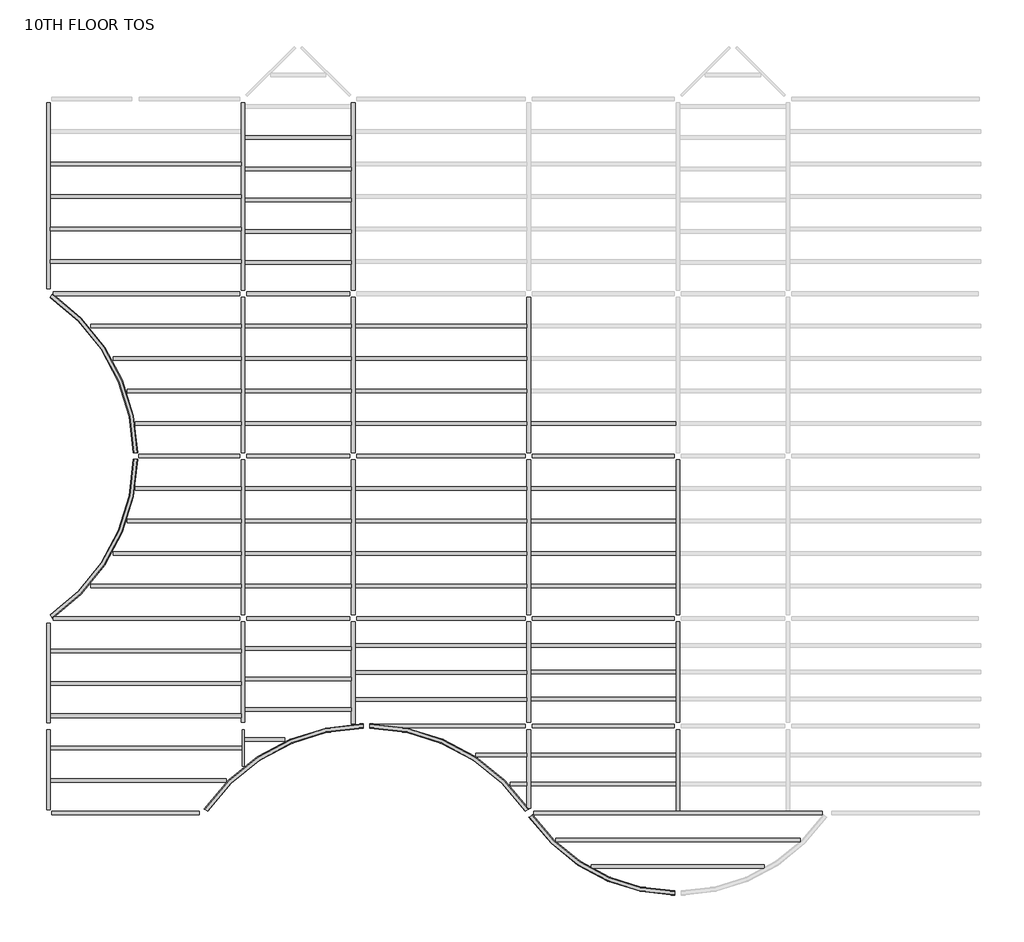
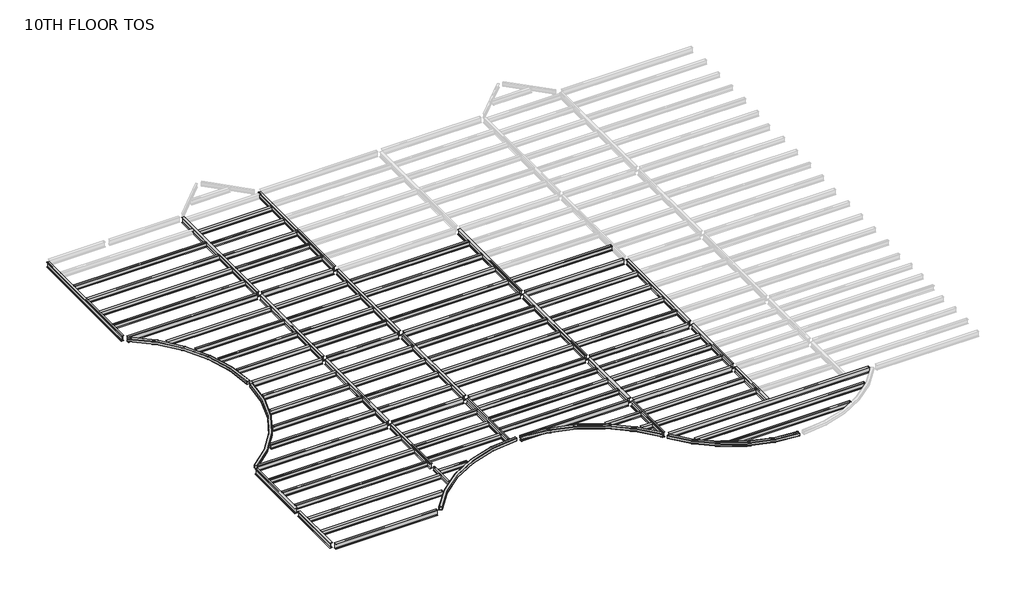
# One storey, part 1 of 2: 97 beams.
"""IFC4 building model written with IfcOpenShell, lengths in millimetres."""

from ifc_helpers import new_model, si_unit, origin, place, context, project, spatial, transform, mapped, element, save
from components import m_hss_square_hss203_2x203_2x9_5_914ff4eb, m_hss_square_hss203_2x203_2x9_5_0e3d8e6e, m_hss_square_hss203_2x203_2x9_5_16dc1c03, m_hss_square_hss203_2x203_2x9_5_18346204, m_hss_square_hss203_2x203_2x9_5_d5f1e8c4, ub_universal_beams_ub254x102x28_4e7f3726, ub_universal_beams_ub305x165x40_c4d0385b, ub_universal_beams_ub305x165x40_d3abc31d, ub_universal_beams_ub305x165x40_0c73730f, ub_universal_beams_ub305x165x40_2a963f0c, ub_universal_beams_ub305x165x40_0a5f2f96, ub_universal_beams_ub305x165x40_d1f7c369, ub_universal_beams_ub305x165x40_83d7b7d5, ub_universal_beams_ub305x165x40_729a4ea5, ub_universal_beams_ub305x165x40_71dfa851, ub_universal_beams_ub305x165x40_619b5398, ub_universal_beams_ub305x165x40_c3492db1, ub_universal_beams_ub305x165x40_8f1c350d, ub_universal_beams_ub305x165x40_3afb5f90, ub_universal_beams_ub305x165x40_767d1929, ub_universal_beams_ub305x165x40_5941ca45, ub_universal_beams_ub356x171x51_ef72dcdd, ub_universal_beams_ub356x171x51_7f80702c, ub_universal_beams_ub356x171x51_dfc36663, ub_universal_beams_ub356x171x51_405a853e, ub_universal_beams_ub356x171x51_e47b7055, ub_universal_beams_ub356x171x51_e97f8d2e, ub_universal_beams_ub356x171x51_11d6b780, ub_universal_beams_ub356x171x51_76b2d20b, ub_universal_beams_ub356x171x51_145ecd4b, ub_universal_beams_ub356x171x51_c7dff8d2, ub_universal_beams_ub356x171x51_834c6e34, ub_universal_beams_ub356x171x51_a38b99de, ub_universal_beams_ub356x171x51_d8f4cdde, ub_universal_beams_ub356x171x51_8094f821, ub_universal_beams_ub356x171x51_c03c70fb, ub_universal_beams_ub356x171x51_e661f2e4, ub_universal_beams_ub356x171x51_3ee91673, ub_universal_beams_ub356x171x51_a871b283, ub_universal_beams_ub356x171x51_741bae58

model = new_model("IFC4")

# Units and contexts
model_context = context("Model", 3, world=origin())
ifc_project = project(units=[si_unit("LENGTHUNIT", "METRE", prefix="MILLI")], contexts=[model_context])

# Site, building, storey
site = spatial("IfcSite", under=ifc_project)
building = spatial("IfcBuilding", under=site)
storey = spatial("IfcBuildingStorey", under=building, Name="10TH FLOOR TOS", Elevation=45567.6)

# Beams
placement = place(None, origin())
m_hss_square_hss203_2x203_2x9_5_shape = m_hss_square_hss203_2x203_2x9_5_914ff4eb(model_context)
element("IfcBeam", 1, ObjectType="M_HSS Square : HSS203.2X203.2X9.5", at=placement, inside=storey, context=model_context, shape_type="MappedRepresentation", body=[
    mapped(m_hss_square_hss203_2x203_2x9_5_shape, transform((22710.575, 155.575, 45466.1), x_axis=(-0.552849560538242, 0.8332810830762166, 0.0), y_axis=(-0.8332810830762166, -0.552849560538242, 0.0), z_axis=(0.0, 0.0, 1.0))),
])
m_hss_square_hss203_2x203_2x9_5_2_shape = m_hss_square_hss203_2x203_2x9_5_0e3d8e6e(model_context)
element("IfcBeam", 2, ObjectType="M_HSS Square : HSS203.2X203.2X9.5", at=placement, inside=storey, context=model_context, shape_type="MappedRepresentation", body=[
    mapped(m_hss_square_hss203_2x203_2x9_5_2_shape, transform((155.575, 9299.575, 45466.1), x_axis=(0.8332810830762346, 0.5528495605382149, 0.0), y_axis=(-0.5528495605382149, 0.8332810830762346, 0.0), z_axis=(0.0, 0.0, 1.0))),
])
m_hss_square_hss203_2x203_2x9_5_3_shape = m_hss_square_hss203_2x203_2x9_5_16dc1c03(model_context)
element("IfcBeam", 3, ObjectType="M_HSS Square : HSS203.2X203.2X9.5", at=placement, inside=storey, context=model_context, shape_type="MappedRepresentation", body=[
    mapped(m_hss_square_hss203_2x203_2x9_5_3_shape, transform((155.575, 24539.575, 45466.1), x_axis=(0.8332810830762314, -0.5528495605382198, 0.0), y_axis=(0.5528495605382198, 0.8332810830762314, 0.0), z_axis=(0.0, 0.0, 1.0))),
])
m_hss_square_hss203_2x203_2x9_5_4_shape = m_hss_square_hss203_2x203_2x9_5_18346204(model_context)
element("IfcBeam", 4, ObjectType="M_HSS Square : HSS203.2X203.2X9.5", at=placement, inside=storey, context=model_context, shape_type="MappedRepresentation", body=[
    mapped(m_hss_square_hss203_2x203_2x9_5_4_shape, transform((29734.7266693, -3601.398624, 45466.1), x_axis=(-0.9999968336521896, -0.0025164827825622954, 0.0), y_axis=(0.0025164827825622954, -0.9999968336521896, 0.0), z_axis=(0.0, 0.0, 1.0))),
])
m_hss_square_hss203_2x203_2x9_5_5_shape = m_hss_square_hss203_2x203_2x9_5_d5f1e8c4(model_context)
element("IfcBeam", 5, ObjectType="M_HSS Square : HSS203.2X203.2X9.5", at=placement, inside=storey, context=model_context, shape_type="MappedRepresentation", body=[
    mapped(m_hss_square_hss203_2x203_2x9_5_5_shape, transform((15096.4572854, 4244.5731081, 45466.1), x_axis=(-0.9999997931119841, 0.0006432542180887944, 0.0), y_axis=(-0.0006432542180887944, -0.9999997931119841, 0.0), z_axis=(0.0, 0.0, 1.0))),
])
ub_universal_beams_ub254x102x28_shape = ub_universal_beams_ub254x102x28_4e7f3726(model_context)
element("IfcBeam", 6, ObjectType="UB-Universal Beams : UB254x102x28", at=placement, inside=storey, context=model_context, shape_type="MappedRepresentation", body=[
    mapped(ub_universal_beams_ub254x102x28_shape, transform((9299.575, 3210.915913, 45437.4), x_axis=(0.0, -1.0, 0.0), y_axis=(1.0, 0.0, 0.0), z_axis=(0.0, 0.0, 1.0))),
])
ub_universal_beams_ub305x165x40_shape = ub_universal_beams_ub305x165x40_c4d0385b(model_context)
element("IfcBeam", 7, ObjectType="UB-Universal Beams : UB305x165x40", at=placement, inside=storey, context=model_context, shape_type="MappedRepresentation", body=[
    mapped(ub_universal_beams_ub305x165x40_shape, transform((4727.575, 30635.575, 45415.9), x_axis=(1.0, 0.0, 0.0), y_axis=(0.0, 1.0, 0.0), z_axis=(0.0, 0.0, 1.0))),
])
element("IfcBeam", 8, ObjectType="UB-Universal Beams : UB305x165x40", at=placement, inside=storey, context=model_context, shape_type="MappedRepresentation", body=[
    mapped(ub_universal_beams_ub305x165x40_shape, transform((4727.575, 29111.575, 45415.9), x_axis=(1.0, 0.0, 0.0), y_axis=(0.0, 1.0, 0.0), z_axis=(0.0, 0.0, 1.0))),
])
element("IfcBeam", 9, ObjectType="UB-Universal Beams : UB305x165x40", at=placement, inside=storey, context=model_context, shape_type="MappedRepresentation", body=[
    mapped(ub_universal_beams_ub305x165x40_shape, transform((4727.575, 27587.575, 45415.9), x_axis=(1.0, 0.0, 0.0), y_axis=(0.0, 1.0, 0.0), z_axis=(0.0, 0.0, 1.0))),
])
element("IfcBeam", 10, ObjectType="UB-Universal Beams : UB305x165x40", at=placement, inside=storey, context=model_context, shape_type="MappedRepresentation", body=[
    mapped(ub_universal_beams_ub305x165x40_shape, transform((4727.575, 26063.575, 45415.9), x_axis=(1.0, 0.0, 0.0), y_axis=(0.0, 1.0, 0.0), z_axis=(0.0, 0.0, 1.0))),
])
element("IfcBeam", 11, ObjectType="UB-Universal Beams : UB305x165x40", at=placement, inside=storey, context=model_context, shape_type="MappedRepresentation", body=[
    mapped(ub_universal_beams_ub305x165x40_shape, transform((4727.575, 4727.575, 45415.9), x_axis=(-1.0, 0.0, 0.0), y_axis=(0.0, -1.0, 0.0), z_axis=(0.0, 0.0, 1.0))),
])
element("IfcBeam", 12, ObjectType="UB-Universal Beams : UB305x165x40", at=placement, inside=storey, context=model_context, shape_type="MappedRepresentation", body=[
    mapped(ub_universal_beams_ub305x165x40_shape, transform((4727.575, 6251.575, 45415.9), x_axis=(-1.0, 0.0, 0.0), y_axis=(0.0, -1.0, 0.0), z_axis=(0.0, 0.0, 1.0))),
])
element("IfcBeam", 13, ObjectType="UB-Universal Beams : UB305x165x40", at=placement, inside=storey, context=model_context, shape_type="MappedRepresentation", body=[
    mapped(ub_universal_beams_ub305x165x40_shape, transform((4727.575, 7775.575, 45415.9), x_axis=(-1.0, 0.0, 0.0), y_axis=(0.0, -1.0, 0.0), z_axis=(0.0, 0.0, 1.0))),
])
ub_universal_beams_ub305x165x40_2_shape = ub_universal_beams_ub305x165x40_d3abc31d(model_context)
element("IfcBeam", 14, ObjectType="UB-Universal Beams : UB305x165x40", at=placement, inside=storey, context=model_context, shape_type="MappedRepresentation", body=[
    mapped(ub_universal_beams_ub305x165x40_2_shape, transform((11885.575, 31870.825, 45415.9), x_axis=(1.0, 0.0, 0.0), y_axis=(0.0, 1.0, 0.0), z_axis=(0.0, 0.0, 1.0))),
])
element("IfcBeam", 15, ObjectType="UB-Universal Beams : UB305x165x40", at=placement, inside=storey, context=model_context, shape_type="MappedRepresentation", body=[
    mapped(ub_universal_beams_ub305x165x40_2_shape, transform((11885.575, 30404.575, 45415.9), x_axis=(1.0, 0.0, 0.0), y_axis=(0.0, 1.0, 0.0), z_axis=(0.0, 0.0, 1.0))),
])
element("IfcBeam", 16, ObjectType="UB-Universal Beams : UB305x165x40", at=placement, inside=storey, context=model_context, shape_type="MappedRepresentation", body=[
    mapped(ub_universal_beams_ub305x165x40_2_shape, transform((11885.575, 28938.325, 45415.9), x_axis=(1.0, 0.0, 0.0), y_axis=(0.0, 1.0, 0.0), z_axis=(0.0, 0.0, 1.0))),
])
element("IfcBeam", 17, ObjectType="UB-Universal Beams : UB305x165x40", at=placement, inside=storey, context=model_context, shape_type="MappedRepresentation", body=[
    mapped(ub_universal_beams_ub305x165x40_2_shape, transform((11885.575, 27472.075, 45415.9), x_axis=(1.0, 0.0, 0.0), y_axis=(0.0, 1.0, 0.0), z_axis=(0.0, 0.0, 1.0))),
])
element("IfcBeam", 18, ObjectType="UB-Universal Beams : UB305x165x40", at=placement, inside=storey, context=model_context, shape_type="MappedRepresentation", body=[
    mapped(ub_universal_beams_ub305x165x40_2_shape, transform((11885.575, 26005.825, 45415.9), x_axis=(1.0, 0.0, 0.0), y_axis=(0.0, 1.0, 0.0), z_axis=(0.0, 0.0, 1.0))),
])
element("IfcBeam", 19, ObjectType="UB-Universal Beams : UB305x165x40", at=placement, inside=storey, context=model_context, shape_type="MappedRepresentation", body=[
    mapped(ub_universal_beams_ub305x165x40_2_shape, transform((11885.575, 23015.575, 45415.9), x_axis=(1.0, 0.0, 0.0), y_axis=(0.0, 1.0, 0.0), z_axis=(0.0, 0.0, 1.0))),
])
element("IfcBeam", 20, ObjectType="UB-Universal Beams : UB305x165x40", at=placement, inside=storey, context=model_context, shape_type="MappedRepresentation", body=[
    mapped(ub_universal_beams_ub305x165x40_2_shape, transform((11885.575, 21491.575, 45415.9), x_axis=(1.0, 0.0, 0.0), y_axis=(0.0, 1.0, 0.0), z_axis=(0.0, 0.0, 1.0))),
])
element("IfcBeam", 21, ObjectType="UB-Universal Beams : UB305x165x40", at=placement, inside=storey, context=model_context, shape_type="MappedRepresentation", body=[
    mapped(ub_universal_beams_ub305x165x40_2_shape, transform((11885.575, 19967.575, 45415.9), x_axis=(1.0, 0.0, 0.0), y_axis=(0.0, 1.0, 0.0), z_axis=(0.0, 0.0, 1.0))),
])
element("IfcBeam", 22, ObjectType="UB-Universal Beams : UB305x165x40", at=placement, inside=storey, context=model_context, shape_type="MappedRepresentation", body=[
    mapped(ub_universal_beams_ub305x165x40_2_shape, transform((11885.575, 18443.575, 45415.9), x_axis=(1.0, 0.0, 0.0), y_axis=(0.0, 1.0, 0.0), z_axis=(0.0, 0.0, 1.0))),
])
element("IfcBeam", 23, ObjectType="UB-Universal Beams : UB305x165x40", at=placement, inside=storey, context=model_context, shape_type="MappedRepresentation", body=[
    mapped(ub_universal_beams_ub305x165x40_2_shape, transform((11885.575, 15395.575, 45415.9), x_axis=(1.0, 0.0, 0.0), y_axis=(0.0, 1.0, 0.0), z_axis=(0.0, 0.0, 1.0))),
])
element("IfcBeam", 24, ObjectType="UB-Universal Beams : UB305x165x40", at=placement, inside=storey, context=model_context, shape_type="MappedRepresentation", body=[
    mapped(ub_universal_beams_ub305x165x40_2_shape, transform((11885.575, 13871.575, 45415.9), x_axis=(1.0, 0.0, 0.0), y_axis=(0.0, 1.0, 0.0), z_axis=(0.0, 0.0, 1.0))),
])
element("IfcBeam", 25, ObjectType="UB-Universal Beams : UB305x165x40", at=placement, inside=storey, context=model_context, shape_type="MappedRepresentation", body=[
    mapped(ub_universal_beams_ub305x165x40_2_shape, transform((11885.575, 12347.575, 45415.9), x_axis=(1.0, 0.0, 0.0), y_axis=(0.0, 1.0, 0.0), z_axis=(0.0, 0.0, 1.0))),
])
element("IfcBeam", 26, ObjectType="UB-Universal Beams : UB305x165x40", at=placement, inside=storey, context=model_context, shape_type="MappedRepresentation", body=[
    mapped(ub_universal_beams_ub305x165x40_2_shape, transform((11885.575, 10823.575, 45415.9), x_axis=(1.0, 0.0, 0.0), y_axis=(0.0, 1.0, 0.0), z_axis=(0.0, 0.0, 1.0))),
])
element("IfcBeam", 27, ObjectType="UB-Universal Beams : UB305x165x40", at=placement, inside=storey, context=model_context, shape_type="MappedRepresentation", body=[
    mapped(ub_universal_beams_ub305x165x40_2_shape, transform((11885.575, 5026.1840956, 45415.9), x_axis=(-1.0, 0.0, 0.0), y_axis=(0.0, -1.0, 0.0), z_axis=(0.0, 0.0, 1.0))),
])
element("IfcBeam", 28, ObjectType="UB-Universal Beams : UB305x165x40", at=placement, inside=storey, context=model_context, shape_type="MappedRepresentation", body=[
    mapped(ub_universal_beams_ub305x165x40_2_shape, transform((11885.575, 6450.6477304, 45415.9), x_axis=(-1.0, 0.0, 0.0), y_axis=(0.0, -1.0, 0.0), z_axis=(0.0, 0.0, 1.0))),
])
element("IfcBeam", 29, ObjectType="UB-Universal Beams : UB305x165x40", at=placement, inside=storey, context=model_context, shape_type="MappedRepresentation", body=[
    mapped(ub_universal_beams_ub305x165x40_2_shape, transform((11885.575, 7875.1113652, 45415.9), x_axis=(-1.0, 0.0, 0.0), y_axis=(0.0, -1.0, 0.0), z_axis=(0.0, 0.0, 1.0))),
])
ub_universal_beams_ub305x165x40_3_shape = ub_universal_beams_ub305x165x40_0c73730f(model_context)
element("IfcBeam", 30, ObjectType="UB-Universal Beams : UB305x165x40", at=placement, inside=storey, context=model_context, shape_type="MappedRepresentation", body=[
    mapped(ub_universal_beams_ub305x165x40_3_shape, transform((18591.075, 5492.5943214, 45415.9), x_axis=(-1.0, 0.0, 0.0), y_axis=(0.0, -1.0, 0.0), z_axis=(0.0, 0.0, 1.0))),
])
element("IfcBeam", 31, ObjectType="UB-Universal Beams : UB305x165x40", at=placement, inside=storey, context=model_context, shape_type="MappedRepresentation", body=[
    mapped(ub_universal_beams_ub305x165x40_3_shape, transform((18591.075, 6761.5878809, 45415.9), x_axis=(-1.0, 0.0, 0.0), y_axis=(0.0, -1.0, 0.0), z_axis=(0.0, 0.0, 1.0))),
])
element("IfcBeam", 32, ObjectType="UB-Universal Beams : UB305x165x40", at=placement, inside=storey, context=model_context, shape_type="MappedRepresentation", body=[
    mapped(ub_universal_beams_ub305x165x40_3_shape, transform((18591.075, 8030.5814405, 45415.9), x_axis=(-1.0, 0.0, 0.0), y_axis=(0.0, -1.0, 0.0), z_axis=(0.0, 0.0, 1.0))),
])
element("IfcBeam", 33, ObjectType="UB-Universal Beams : UB305x165x40", at=placement, inside=storey, context=model_context, shape_type="MappedRepresentation", body=[
    mapped(ub_universal_beams_ub305x165x40_3_shape, transform((18591.075, 15395.575, 45415.9), x_axis=(1.0, 0.0, 0.0), y_axis=(0.0, 1.0, 0.0), z_axis=(0.0, 0.0, 1.0))),
])
element("IfcBeam", 34, ObjectType="UB-Universal Beams : UB305x165x40", at=placement, inside=storey, context=model_context, shape_type="MappedRepresentation", body=[
    mapped(ub_universal_beams_ub305x165x40_3_shape, transform((18591.075, 13871.575, 45415.9), x_axis=(1.0, 0.0, 0.0), y_axis=(0.0, 1.0, 0.0), z_axis=(0.0, 0.0, 1.0))),
])
element("IfcBeam", 35, ObjectType="UB-Universal Beams : UB305x165x40", at=placement, inside=storey, context=model_context, shape_type="MappedRepresentation", body=[
    mapped(ub_universal_beams_ub305x165x40_3_shape, transform((18591.075, 12347.575, 45415.9), x_axis=(1.0, 0.0, 0.0), y_axis=(0.0, 1.0, 0.0), z_axis=(0.0, 0.0, 1.0))),
])
element("IfcBeam", 36, ObjectType="UB-Universal Beams : UB305x165x40", at=placement, inside=storey, context=model_context, shape_type="MappedRepresentation", body=[
    mapped(ub_universal_beams_ub305x165x40_3_shape, transform((18591.075, 10823.575, 45415.9), x_axis=(1.0, 0.0, 0.0), y_axis=(0.0, 1.0, 0.0), z_axis=(0.0, 0.0, 1.0))),
])
element("IfcBeam", 37, ObjectType="UB-Universal Beams : UB305x165x40", at=placement, inside=storey, context=model_context, shape_type="MappedRepresentation", body=[
    mapped(ub_universal_beams_ub305x165x40_3_shape, transform((18591.075, 23015.575, 45415.9), x_axis=(1.0, 0.0, 0.0), y_axis=(0.0, 1.0, 0.0), z_axis=(0.0, 0.0, 1.0))),
])
element("IfcBeam", 38, ObjectType="UB-Universal Beams : UB305x165x40", at=placement, inside=storey, context=model_context, shape_type="MappedRepresentation", body=[
    mapped(ub_universal_beams_ub305x165x40_3_shape, transform((18591.075, 21491.575, 45415.9), x_axis=(1.0, 0.0, 0.0), y_axis=(0.0, 1.0, 0.0), z_axis=(0.0, 0.0, 1.0))),
])
element("IfcBeam", 39, ObjectType="UB-Universal Beams : UB305x165x40", at=placement, inside=storey, context=model_context, shape_type="MappedRepresentation", body=[
    mapped(ub_universal_beams_ub305x165x40_3_shape, transform((18591.075, 19967.575, 45415.9), x_axis=(1.0, 0.0, 0.0), y_axis=(0.0, 1.0, 0.0), z_axis=(0.0, 0.0, 1.0))),
])
element("IfcBeam", 40, ObjectType="UB-Universal Beams : UB305x165x40", at=placement, inside=storey, context=model_context, shape_type="MappedRepresentation", body=[
    mapped(ub_universal_beams_ub305x165x40_3_shape, transform((18591.075, 18443.575, 45415.9), x_axis=(1.0, 0.0, 0.0), y_axis=(0.0, 1.0, 0.0), z_axis=(0.0, 0.0, 1.0))),
])
ub_universal_beams_ub305x165x40_4_shape = ub_universal_beams_ub305x165x40_2a963f0c(model_context)
element("IfcBeam", 41, ObjectType="UB-Universal Beams : UB305x165x40", at=placement, inside=storey, context=model_context, shape_type="MappedRepresentation", body=[
    mapped(ub_universal_beams_ub305x165x40_4_shape, transform((26211.075, 18443.575, 45415.9), x_axis=(1.0, 0.0, 0.0), y_axis=(0.0, 1.0, 0.0), z_axis=(0.0, 0.0, 1.0))),
])
element("IfcBeam", 42, ObjectType="UB-Universal Beams : UB305x165x40", at=placement, inside=storey, context=model_context, shape_type="MappedRepresentation", body=[
    mapped(ub_universal_beams_ub305x165x40_4_shape, transform((26211.075, 15395.575, 45415.9), x_axis=(1.0, 0.0, 0.0), y_axis=(0.0, 1.0, 0.0), z_axis=(0.0, 0.0, 1.0))),
])
element("IfcBeam", 43, ObjectType="UB-Universal Beams : UB305x165x40", at=placement, inside=storey, context=model_context, shape_type="MappedRepresentation", body=[
    mapped(ub_universal_beams_ub305x165x40_4_shape, transform((26211.075, 13871.575, 45415.9), x_axis=(1.0, 0.0, 0.0), y_axis=(0.0, 1.0, 0.0), z_axis=(0.0, 0.0, 1.0))),
])
element("IfcBeam", 44, ObjectType="UB-Universal Beams : UB305x165x40", at=placement, inside=storey, context=model_context, shape_type="MappedRepresentation", body=[
    mapped(ub_universal_beams_ub305x165x40_4_shape, transform((26211.075, 12347.575, 45415.9), x_axis=(1.0, 0.0, 0.0), y_axis=(0.0, 1.0, 0.0), z_axis=(0.0, 0.0, 1.0))),
])
element("IfcBeam", 45, ObjectType="UB-Universal Beams : UB305x165x40", at=placement, inside=storey, context=model_context, shape_type="MappedRepresentation", body=[
    mapped(ub_universal_beams_ub305x165x40_4_shape, transform((26211.075, 10823.575, 45415.9), x_axis=(1.0, 0.0, 0.0), y_axis=(0.0, 1.0, 0.0), z_axis=(0.0, 0.0, 1.0))),
])
element("IfcBeam", 46, ObjectType="UB-Universal Beams : UB305x165x40", at=placement, inside=storey, context=model_context, shape_type="MappedRepresentation", body=[
    mapped(ub_universal_beams_ub305x165x40_4_shape, transform((26211.075, 5508.325, 45415.9), x_axis=(-1.0, 0.0, 0.0), y_axis=(0.0, -1.0, 0.0), z_axis=(0.0, 0.0, 1.0))),
])
element("IfcBeam", 47, ObjectType="UB-Universal Beams : UB305x165x40", at=placement, inside=storey, context=model_context, shape_type="MappedRepresentation", body=[
    mapped(ub_universal_beams_ub305x165x40_4_shape, transform((26211.075, 6772.075, 45415.9), x_axis=(-1.0, 0.0, 0.0), y_axis=(0.0, -1.0, 0.0), z_axis=(0.0, 0.0, 1.0))),
])
element("IfcBeam", 48, ObjectType="UB-Universal Beams : UB305x165x40", at=placement, inside=storey, context=model_context, shape_type="MappedRepresentation", body=[
    mapped(ub_universal_beams_ub305x165x40_4_shape, transform((26211.075, 8035.825, 45415.9), x_axis=(-1.0, 0.0, 0.0), y_axis=(0.0, -1.0, 0.0), z_axis=(0.0, 0.0, 1.0))),
])
element("IfcBeam", 49, ObjectType="UB-Universal Beams : UB305x165x40", at=placement, inside=storey, context=model_context, shape_type="MappedRepresentation", body=[
    mapped(ub_universal_beams_ub305x165x40_4_shape, transform((26211.075, 1518.575, 45415.9), x_axis=(-1.0, 0.0, 0.0), y_axis=(0.0, -1.0, 0.0), z_axis=(0.0, 0.0, 1.0))),
])
element("IfcBeam", 50, ObjectType="UB-Universal Beams : UB305x165x40", at=placement, inside=storey, context=model_context, shape_type="MappedRepresentation", body=[
    mapped(ub_universal_beams_ub305x165x40_4_shape, transform((26211.075, 2881.575, 45415.9), x_axis=(-1.0, 0.0, 0.0), y_axis=(0.0, -1.0, 0.0), z_axis=(0.0, 0.0, 1.0))),
])
ub_universal_beams_ub305x165x40_5_shape = ub_universal_beams_ub305x165x40_0a5f2f96(model_context)
element("IfcBeam", 51, ObjectType="UB-Universal Beams : UB305x165x40", at=placement, inside=storey, context=model_context, shape_type="MappedRepresentation", body=[
    mapped(ub_universal_beams_ub305x165x40_5_shape, transform((29713.575, -2349.0918253, 45415.9), x_axis=(-1.0, 0.0, 0.0), y_axis=(0.0, -1.0, 0.0), z_axis=(0.0, 0.0, 1.0))),
])
ub_universal_beams_ub305x165x40_6_shape = ub_universal_beams_ub305x165x40_d1f7c369(model_context)
element("IfcBeam", 52, ObjectType="UB-Universal Beams : UB305x165x40", at=placement, inside=storey, context=model_context, shape_type="MappedRepresentation", body=[
    mapped(ub_universal_beams_ub305x165x40_6_shape, transform((29713.575, -1096.7584126, 45415.9), x_axis=(-1.0, 0.0, 0.0), y_axis=(0.0, -1.0, 0.0), z_axis=(0.0, 0.0, 1.0))),
])
ub_universal_beams_ub305x165x40_7_shape = ub_universal_beams_ub305x165x40_83d7b7d5(model_context)
element("IfcBeam", 53, ObjectType="UB-Universal Beams : UB305x165x40", at=placement, inside=storey, context=model_context, shape_type="MappedRepresentation", body=[
    mapped(ub_universal_beams_ub305x165x40_7_shape, transform((22157.3041106, 1518.575, 45415.9), x_axis=(-1.0, 0.0, 0.0), y_axis=(0.0, -1.0, 0.0), z_axis=(0.0, 0.0, 1.0))),
])
ub_universal_beams_ub305x165x40_8_shape = ub_universal_beams_ub305x165x40_729a4ea5(model_context)
element("IfcBeam", 54, ObjectType="UB-Universal Beams : UB305x165x40", at=placement, inside=storey, context=model_context, shape_type="MappedRepresentation", body=[
    mapped(ub_universal_beams_ub305x165x40_8_shape, transform((21302.1545844, 2881.575, 45415.9), x_axis=(-1.0, 0.0, 0.0), y_axis=(0.0, -1.0, 0.0), z_axis=(0.0, 0.0, 1.0))),
])
ub_universal_beams_ub305x165x40_9_shape = ub_universal_beams_ub305x165x40_71dfa851(model_context)
element("IfcBeam", 55, ObjectType="UB-Universal Beams : UB305x165x40", at=placement, inside=storey, context=model_context, shape_type="MappedRepresentation", body=[
    mapped(ub_universal_beams_ub305x165x40_9_shape, transform((10511.0323166, 3601.7204608, 45415.9), x_axis=(-1.0, 0.0, 0.0), y_axis=(0.0, -1.0, 0.0), z_axis=(0.0, 0.0, 1.0))),
])
ub_universal_beams_ub305x165x40_10_shape = ub_universal_beams_ub305x165x40_619b5398(model_context)
element("IfcBeam", 56, ObjectType="UB-Universal Beams : UB305x165x40", at=placement, inside=storey, context=model_context, shape_type="MappedRepresentation", body=[
    mapped(ub_universal_beams_ub305x165x40_10_shape, transform((4447.6838282, 1679.575, 45415.9), x_axis=(-1.0, 0.0, 0.0), y_axis=(0.0, -1.0, 0.0), z_axis=(0.0, 0.0, 1.0))),
])
ub_universal_beams_ub305x165x40_11_shape = ub_universal_beams_ub305x165x40_c3492db1(model_context)
element("IfcBeam", 57, ObjectType="UB-Universal Beams : UB305x165x40", at=placement, inside=storey, context=model_context, shape_type="MappedRepresentation", body=[
    mapped(ub_universal_beams_ub305x165x40_11_shape, transform((4727.575, 3203.575, 45415.9), x_axis=(-1.0, 0.0, 0.0), y_axis=(0.0, -1.0, 0.0), z_axis=(0.0, 0.0, 1.0))),
])
ub_universal_beams_ub305x165x40_12_shape = ub_universal_beams_ub305x165x40_8f1c350d(model_context)
element("IfcBeam", 58, ObjectType="UB-Universal Beams : UB305x165x40", at=placement, inside=storey, context=model_context, shape_type="MappedRepresentation", body=[
    mapped(ub_universal_beams_ub305x165x40_12_shape, transform((6708.1318611, 15395.575, 45415.9), x_axis=(1.0, 0.0, 0.0), y_axis=(0.0, 1.0, 0.0), z_axis=(0.0, 0.0, 1.0))),
])
element("IfcBeam", 59, ObjectType="UB-Universal Beams : UB305x165x40", at=placement, inside=storey, context=model_context, shape_type="MappedRepresentation", body=[
    mapped(ub_universal_beams_ub305x165x40_12_shape, transform((6708.1318611, 18443.575, 45415.9), x_axis=(1.0, 0.0, 0.0), y_axis=(0.0, 1.0, 0.0), z_axis=(0.0, 0.0, 1.0))),
])
ub_universal_beams_ub305x165x40_13_shape = ub_universal_beams_ub305x165x40_3afb5f90(model_context)
element("IfcBeam", 60, ObjectType="UB-Universal Beams : UB305x165x40", at=placement, inside=storey, context=model_context, shape_type="MappedRepresentation", body=[
    mapped(ub_universal_beams_ub305x165x40_13_shape, transform((6510.6153272, 13871.575, 45415.9), x_axis=(1.0, 0.0, 0.0), y_axis=(0.0, 1.0, 0.0), z_axis=(0.0, 0.0, 1.0))),
])
element("IfcBeam", 61, ObjectType="UB-Universal Beams : UB305x165x40", at=placement, inside=storey, context=model_context, shape_type="MappedRepresentation", body=[
    mapped(ub_universal_beams_ub305x165x40_13_shape, transform((6510.6153272, 19967.575, 45415.9), x_axis=(1.0, 0.0, 0.0), y_axis=(0.0, 1.0, 0.0), z_axis=(0.0, 0.0, 1.0))),
])
ub_universal_beams_ub305x165x40_14_shape = ub_universal_beams_ub305x165x40_767d1929(model_context)
element("IfcBeam", 62, ObjectType="UB-Universal Beams : UB305x165x40", at=placement, inside=storey, context=model_context, shape_type="MappedRepresentation", body=[
    mapped(ub_universal_beams_ub305x165x40_14_shape, transform((6159.5874928, 12347.575, 45415.9), x_axis=(1.0, 0.0, 0.0), y_axis=(0.0, 1.0, 0.0), z_axis=(0.0, 0.0, 1.0))),
])
element("IfcBeam", 63, ObjectType="UB-Universal Beams : UB305x165x40", at=placement, inside=storey, context=model_context, shape_type="MappedRepresentation", body=[
    mapped(ub_universal_beams_ub305x165x40_14_shape, transform((6159.5874928, 21491.575, 45415.9), x_axis=(1.0, 0.0, 0.0), y_axis=(0.0, 1.0, 0.0), z_axis=(0.0, 0.0, 1.0))),
])
ub_universal_beams_ub305x165x40_15_shape = ub_universal_beams_ub305x165x40_5941ca45(model_context)
element("IfcBeam", 64, ObjectType="UB-Universal Beams : UB305x165x40", at=placement, inside=storey, context=model_context, shape_type="MappedRepresentation", body=[
    mapped(ub_universal_beams_ub305x165x40_15_shape, transform((5607.9405309, 10823.575, 45415.9), x_axis=(1.0, 0.0, 0.0), y_axis=(0.0, 1.0, 0.0), z_axis=(0.0, 0.0, 1.0))),
])
element("IfcBeam", 65, ObjectType="UB-Universal Beams : UB305x165x40", at=placement, inside=storey, context=model_context, shape_type="MappedRepresentation", body=[
    mapped(ub_universal_beams_ub305x165x40_15_shape, transform((5607.9405309, 23015.575, 45415.9), x_axis=(1.0, 0.0, 0.0), y_axis=(0.0, 1.0, 0.0), z_axis=(0.0, 0.0, 1.0))),
])
ub_universal_beams_ub356x171x51_shape = ub_universal_beams_ub356x171x51_ef72dcdd(model_context)
element("IfcBeam", 66, ObjectType="UB-Universal Beams : UB356x171x51", at=placement, inside=storey, context=model_context, shape_type="MappedRepresentation", body=[
    mapped(ub_universal_beams_ub356x171x51_shape, transform((9299.575, 6772.075, 45390.1), x_axis=(0.0, -1.0, 0.0), y_axis=(1.0, 0.0, 0.0), z_axis=(0.0, 0.0, 1.0))),
])
element("IfcBeam", 67, ObjectType="UB-Universal Beams : UB356x171x51", at=placement, inside=storey, context=model_context, shape_type="MappedRepresentation", body=[
    mapped(ub_universal_beams_ub356x171x51_shape, transform((29711.575, 6772.075, 45390.1), x_axis=(0.0, 1.0, 0.0), y_axis=(-1.0, 0.0, 0.0), z_axis=(0.0, 0.0, 1.0))),
])
element("IfcBeam", 68, ObjectType="UB-Universal Beams : UB356x171x51", at=placement, inside=storey, context=model_context, shape_type="MappedRepresentation", body=[
    mapped(ub_universal_beams_ub356x171x51_shape, transform((22710.575, 6772.075, 45390.1), x_axis=(0.0, -1.0, 0.0), y_axis=(1.0, 0.0, 0.0), z_axis=(0.0, 0.0, 1.0))),
])
ub_universal_beams_ub356x171x51_2_shape = ub_universal_beams_ub356x171x51_7f80702c(model_context)
element("IfcBeam", 69, ObjectType="UB-Universal Beams : UB356x171x51", at=placement, inside=storey, context=model_context, shape_type="MappedRepresentation", body=[
    mapped(ub_universal_beams_ub356x171x51_2_shape, transform((3813.075, 155.575, 45390.1), x_axis=(-1.0, 0.0, 0.0), y_axis=(0.0, -1.0, 0.0), z_axis=(0.0, 0.0, 1.0))),
])
ub_universal_beams_ub356x171x51_3_shape = ub_universal_beams_ub356x171x51_dfc36663(model_context)
element("IfcBeam", 70, ObjectType="UB-Universal Beams : UB356x171x51", at=placement, inside=storey, context=model_context, shape_type="MappedRepresentation", body=[
    mapped(ub_universal_beams_ub356x171x51_3_shape, transform((155.575, 2200.075, 45390.1), x_axis=(0.0, 1.0, 0.0), y_axis=(-1.0, 0.0, 0.0), z_axis=(0.0, 0.0, 1.0))),
])
ub_universal_beams_ub356x171x51_4_shape = ub_universal_beams_ub356x171x51_405a853e(model_context)
element("IfcBeam", 71, ObjectType="UB-Universal Beams : UB356x171x51", at=placement, inside=storey, context=model_context, shape_type="MappedRepresentation", body=[
    mapped(ub_universal_beams_ub356x171x51_4_shape, transform((155.575, 6772.075, 45390.1), x_axis=(0.0, 1.0, 0.0), y_axis=(-1.0, 0.0, 0.0), z_axis=(0.0, 0.0, 1.0))),
])
ub_universal_beams_ub356x171x51_5_shape = ub_universal_beams_ub356x171x51_e47b7055(model_context)
element("IfcBeam", 72, ObjectType="UB-Universal Beams : UB356x171x51", at=placement, inside=storey, context=model_context, shape_type="MappedRepresentation", body=[
    mapped(ub_universal_beams_ub356x171x51_5_shape, transform((155.575, 29111.575, 45390.1), x_axis=(0.0, 1.0, 0.0), y_axis=(-1.0, 0.0, 0.0), z_axis=(0.0, 0.0, 1.0))),
])
ub_universal_beams_ub356x171x51_6_shape = ub_universal_beams_ub356x171x51_e97f8d2e(model_context)
element("IfcBeam", 73, ObjectType="UB-Universal Beams : UB356x171x51", at=placement, inside=storey, context=model_context, shape_type="MappedRepresentation", body=[
    mapped(ub_universal_beams_ub356x171x51_6_shape, transform((4727.575, 24539.575, 45390.1), x_axis=(1.0, 0.0, 0.0), y_axis=(0.0, 1.0, 0.0), z_axis=(0.0, 0.0, 1.0))),
])
ub_universal_beams_ub356x171x51_7_shape = ub_universal_beams_ub356x171x51_11d6b780(model_context)
element("IfcBeam", 74, ObjectType="UB-Universal Beams : UB356x171x51", at=placement, inside=storey, context=model_context, shape_type="MappedRepresentation", body=[
    mapped(ub_universal_beams_ub356x171x51_7_shape, transform((11885.575, 24539.575, 45390.1), x_axis=(1.0, 0.0, 0.0), y_axis=(0.0, 1.0, 0.0), z_axis=(0.0, 0.0, 1.0))),
])
element("IfcBeam", 75, ObjectType="UB-Universal Beams : UB356x171x51", at=placement, inside=storey, context=model_context, shape_type="MappedRepresentation", body=[
    mapped(ub_universal_beams_ub356x171x51_7_shape, transform((11885.575, 9299.575, 45390.1), x_axis=(-1.0, 0.0, 0.0), y_axis=(0.0, -1.0, 0.0), z_axis=(0.0, 0.0, 1.0))),
])
element("IfcBeam", 76, ObjectType="UB-Universal Beams : UB356x171x51", at=placement, inside=storey, context=model_context, shape_type="MappedRepresentation", body=[
    mapped(ub_universal_beams_ub356x171x51_7_shape, transform((11885.575, 16919.575, 45390.1), x_axis=(1.0, 0.0, 0.0), y_axis=(0.0, 1.0, 0.0), z_axis=(0.0, 0.0, 1.0))),
])
ub_universal_beams_ub356x171x51_8_shape = ub_universal_beams_ub356x171x51_76b2d20b(model_context)
element("IfcBeam", 77, ObjectType="UB-Universal Beams : UB356x171x51", at=placement, inside=storey, context=model_context, shape_type="MappedRepresentation", body=[
    mapped(ub_universal_beams_ub356x171x51_8_shape, transform((18591.075, 9299.575, 45390.1), x_axis=(-1.0, 0.0, 0.0), y_axis=(0.0, -1.0, 0.0), z_axis=(0.0, 0.0, 1.0))),
])
element("IfcBeam", 78, ObjectType="UB-Universal Beams : UB356x171x51", at=placement, inside=storey, context=model_context, shape_type="MappedRepresentation", body=[
    mapped(ub_universal_beams_ub356x171x51_8_shape, transform((18591.075, 16919.575, 45390.1), x_axis=(1.0, 0.0, 0.0), y_axis=(0.0, 1.0, 0.0), z_axis=(0.0, 0.0, 1.0))),
])
ub_universal_beams_ub356x171x51_9_shape = ub_universal_beams_ub356x171x51_145ecd4b(model_context)
element("IfcBeam", 79, ObjectType="UB-Universal Beams : UB356x171x51", at=placement, inside=storey, context=model_context, shape_type="MappedRepresentation", body=[
    mapped(ub_universal_beams_ub356x171x51_9_shape, transform((26211.075, 9299.575, 45390.1), x_axis=(-1.0, 0.0, 0.0), y_axis=(0.0, -1.0, 0.0), z_axis=(0.0, 0.0, 1.0))),
])
element("IfcBeam", 80, ObjectType="UB-Universal Beams : UB356x171x51", at=placement, inside=storey, context=model_context, shape_type="MappedRepresentation", body=[
    mapped(ub_universal_beams_ub356x171x51_9_shape, transform((26211.075, 16919.575, 45390.1), x_axis=(1.0, 0.0, 0.0), y_axis=(0.0, 1.0, 0.0), z_axis=(0.0, 0.0, 1.0))),
])
element("IfcBeam", 81, ObjectType="UB-Universal Beams : UB356x171x51", at=placement, inside=storey, context=model_context, shape_type="MappedRepresentation", body=[
    mapped(ub_universal_beams_ub356x171x51_9_shape, transform((26211.075, 4244.575, 45390.1), x_axis=(-1.0, 0.0, 0.0), y_axis=(0.0, -1.0, 0.0), z_axis=(0.0, 0.0, 1.0))),
])
ub_universal_beams_ub356x171x51_10_shape = ub_universal_beams_ub356x171x51_c7dff8d2(model_context)
element("IfcBeam", 82, ObjectType="UB-Universal Beams : UB356x171x51", at=placement, inside=storey, context=model_context, shape_type="MappedRepresentation", body=[
    mapped(ub_universal_beams_ub356x171x51_10_shape, transform((4727.575, 9299.575, 45390.1), x_axis=(-1.0, 0.0, 0.0), y_axis=(0.0, -1.0, 0.0), z_axis=(0.0, 0.0, 1.0))),
])
ub_universal_beams_ub356x171x51_11_shape = ub_universal_beams_ub356x171x51_834c6e34(model_context)
element("IfcBeam", 83, ObjectType="UB-Universal Beams : UB356x171x51", at=placement, inside=storey, context=model_context, shape_type="MappedRepresentation", body=[
    mapped(ub_universal_beams_ub356x171x51_11_shape, transform((14471.575, 6761.5878809, 45390.1), x_axis=(0.0, -1.0, 0.0), y_axis=(1.0, 0.0, 0.0), z_axis=(0.0, 0.0, 1.0))),
])
ub_universal_beams_ub356x171x51_12_shape = ub_universal_beams_ub356x171x51_a38b99de(model_context)
element("IfcBeam", 84, ObjectType="UB-Universal Beams : UB356x171x51", at=placement, inside=storey, context=model_context, shape_type="MappedRepresentation", body=[
    mapped(ub_universal_beams_ub356x171x51_12_shape, transform((9299.575, 13109.575, 45390.1), x_axis=(0.0, 1.0, 0.0), y_axis=(-1.0, 0.0, 0.0), z_axis=(0.0, 0.0, 1.0))),
])
element("IfcBeam", 85, ObjectType="UB-Universal Beams : UB356x171x51", at=placement, inside=storey, context=model_context, shape_type="MappedRepresentation", body=[
    mapped(ub_universal_beams_ub356x171x51_12_shape, transform((9299.575, 20729.575, 45390.1), x_axis=(0.0, 1.0, 0.0), y_axis=(-1.0, 0.0, 0.0), z_axis=(0.0, 0.0, 1.0))),
])
element("IfcBeam", 86, ObjectType="UB-Universal Beams : UB356x171x51", at=placement, inside=storey, context=model_context, shape_type="MappedRepresentation", body=[
    mapped(ub_universal_beams_ub356x171x51_12_shape, transform((14471.575, 20729.575, 45390.1), x_axis=(0.0, -1.0, 0.0), y_axis=(1.0, 0.0, 0.0), z_axis=(0.0, 0.0, 1.0))),
])
element("IfcBeam", 87, ObjectType="UB-Universal Beams : UB356x171x51", at=placement, inside=storey, context=model_context, shape_type="MappedRepresentation", body=[
    mapped(ub_universal_beams_ub356x171x51_12_shape, transform((14471.575, 13109.575, 45390.1), x_axis=(0.0, -1.0, 0.0), y_axis=(1.0, 0.0, 0.0), z_axis=(0.0, 0.0, 1.0))),
])
element("IfcBeam", 88, ObjectType="UB-Universal Beams : UB356x171x51", at=placement, inside=storey, context=model_context, shape_type="MappedRepresentation", body=[
    mapped(ub_universal_beams_ub356x171x51_12_shape, transform((22710.575, 20729.575, 45390.1), x_axis=(0.0, -1.0, 0.0), y_axis=(1.0, 0.0, 0.0), z_axis=(0.0, 0.0, 1.0))),
])
element("IfcBeam", 89, ObjectType="UB-Universal Beams : UB356x171x51", at=placement, inside=storey, context=model_context, shape_type="MappedRepresentation", body=[
    mapped(ub_universal_beams_ub356x171x51_12_shape, transform((22710.575, 13109.575, 45390.1), x_axis=(0.0, -1.0, 0.0), y_axis=(1.0, 0.0, 0.0), z_axis=(0.0, 0.0, 1.0))),
])
element("IfcBeam", 90, ObjectType="UB-Universal Beams : UB356x171x51", at=placement, inside=storey, context=model_context, shape_type="MappedRepresentation", body=[
    mapped(ub_universal_beams_ub356x171x51_12_shape, transform((29711.575, 13109.575, 45390.1), x_axis=(0.0, 1.0, 0.0), y_axis=(-1.0, 0.0, 0.0), z_axis=(0.0, 0.0, 1.0))),
])
ub_universal_beams_ub356x171x51_13_shape = ub_universal_beams_ub356x171x51_d8f4cdde(model_context)
element("IfcBeam", 91, ObjectType="UB-Universal Beams : UB356x171x51", at=placement, inside=storey, context=model_context, shape_type="MappedRepresentation", body=[
    mapped(ub_universal_beams_ub356x171x51_13_shape, transform((9299.575, 29111.575, 45390.1), x_axis=(0.0, 1.0, 0.0), y_axis=(-1.0, 0.0, 0.0), z_axis=(0.0, 0.0, 1.0))),
])
ub_universal_beams_ub356x171x51_14_shape = ub_universal_beams_ub356x171x51_8094f821(model_context)
element("IfcBeam", 92, ObjectType="UB-Universal Beams : UB356x171x51", at=placement, inside=storey, context=model_context, shape_type="MappedRepresentation", body=[
    mapped(ub_universal_beams_ub356x171x51_14_shape, transform((6772.075, 16919.575, 45390.1), x_axis=(1.0, 0.0, 0.0), y_axis=(0.0, 1.0, 0.0), z_axis=(0.0, 0.0, 1.0))),
])
ub_universal_beams_ub356x171x51_15_shape = ub_universal_beams_ub356x171x51_c03c70fb(model_context)
element("IfcBeam", 93, ObjectType="UB-Universal Beams : UB356x171x51", at=placement, inside=storey, context=model_context, shape_type="MappedRepresentation", body=[
    mapped(ub_universal_beams_ub356x171x51_15_shape, transform((14471.575, 29111.575, 45390.1), x_axis=(0.0, -1.0, 0.0), y_axis=(1.0, 0.0, 0.0), z_axis=(0.0, 0.0, 1.0))),
])
ub_universal_beams_ub356x171x51_16_shape = ub_universal_beams_ub356x171x51_e661f2e4(model_context)
element("IfcBeam", 94, ObjectType="UB-Universal Beams : UB356x171x51", at=placement, inside=storey, context=model_context, shape_type="MappedRepresentation", body=[
    mapped(ub_universal_beams_ub356x171x51_16_shape, transform((29713.575, 155.575, 45390.1), x_axis=(-1.0, 0.0, 0.0), y_axis=(0.0, -1.0, 0.0), z_axis=(0.0, 0.0, 1.0))),
])
ub_universal_beams_ub356x171x51_17_shape = ub_universal_beams_ub356x171x51_3ee91673(model_context)
element("IfcBeam", 95, ObjectType="UB-Universal Beams : UB356x171x51", at=placement, inside=storey, context=model_context, shape_type="MappedRepresentation", body=[
    mapped(ub_universal_beams_ub356x171x51_17_shape, transform((18900.575, 4244.575, 45390.1), x_axis=(-1.0, 0.0, 0.0), y_axis=(0.0, -1.0, 0.0), z_axis=(0.0, 0.0, 1.0))),
])
ub_universal_beams_ub356x171x51_18_shape = ub_universal_beams_ub356x171x51_a871b283(model_context)
element("IfcBeam", 96, ObjectType="UB-Universal Beams : UB356x171x51", at=placement, inside=storey, context=model_context, shape_type="MappedRepresentation", body=[
    mapped(ub_universal_beams_ub356x171x51_18_shape, transform((22710.575, 2200.075, 45390.1), x_axis=(0.0, -1.0, 0.0), y_axis=(1.0, 0.0, 0.0), z_axis=(0.0, 0.0, 1.0))),
])
ub_universal_beams_ub356x171x51_19_shape = ub_universal_beams_ub356x171x51_741bae58(model_context)
element("IfcBeam", 97, ObjectType="UB-Universal Beams : UB356x171x51", at=placement, inside=storey, context=model_context, shape_type="MappedRepresentation", body=[
    mapped(ub_universal_beams_ub356x171x51_19_shape, transform((29711.575, 2200.075, 45390.1), x_axis=(0.0, -1.0, 0.0), y_axis=(1.0, 0.0, 0.0), z_axis=(0.0, 0.0, 1.0))),
])

save(model, "model.ifc")
